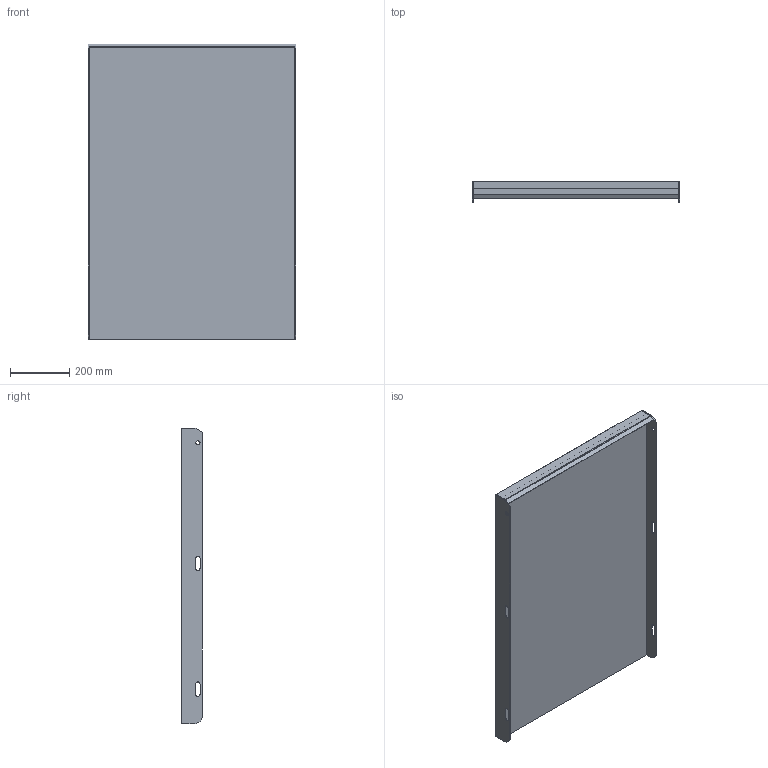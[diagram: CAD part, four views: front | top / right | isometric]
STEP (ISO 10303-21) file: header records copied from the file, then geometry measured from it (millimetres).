
FILE_DESCRIPTION (( 'STEP AP203' ), '1' );
FILE_NAME ('148807101, Plan TH6, 700x100, vfz.STEP', '2020-10-21T13:30:53', ( '' ), ( '' ), 'SwSTEP 2.0', 'SolidWorks 2019', '' );
FILE_SCHEMA (( 'CONFIG_CONTROL_DESIGN' ));
Length unit declared in the file: millimetre
Products named in the file (4): 148807101, Plan TH6, 700x100, vfz; SW0000041407; SW0000041478; SW0000041828
Assembly tree (4 placements, depth 2):
  148807101, Plan TH6, 700x100, vfz
    SW0000041828
    SW0000041407  x2
    SW0000041478
Bounding box: 700 x 70 x 997 mm (x, y, z)
Volume: 17776502.4 mm3; surface area: 1838363.1 mm2
Topology: 4 solids, 4 shells, 69 faces, 172 edges, 112 vertices
Faces by surface type: plane 49, cylinder 20
Entity records: 1868 total; most frequent: DIRECTION 252, CARTESIAN_POINT 250, ORIENTED_EDGE 236, EDGE_CURVE 118, LINE 96, VECTOR 96, AXIS2_PLACEMENT_3D 78, VERTEX_POINT 76
